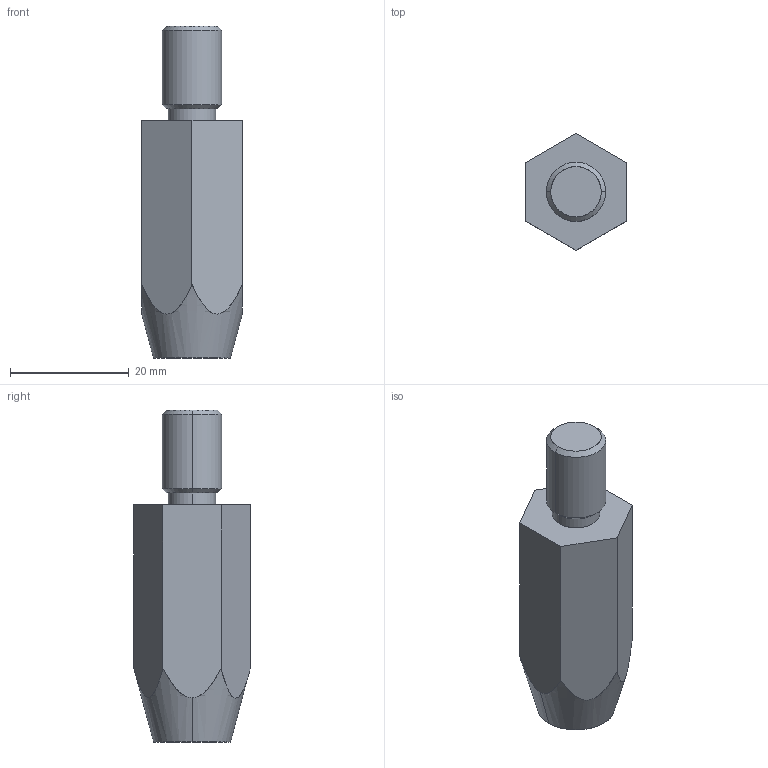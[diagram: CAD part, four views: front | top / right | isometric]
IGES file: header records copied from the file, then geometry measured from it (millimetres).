
Start section: SolidWorks IGES FILE using analytic representation for surfaces
Global section: file name: C:\WIX2\Positioning\3600\3600W102.igs; native system: SolidWorks 2003 by SolidWorks Corporation; preprocessor: Version 5.3; author: Joan; date: 030722.164502; units: millimetre
Bounding box: 17 x 19.63 x 56 mm (x, y, z)
Surface area: 3171.7 mm2 (no closed solid volume)
Topology: 0 solids, 0 shells, 20 faces, 330 edges, 330 vertices
Faces by surface type: revolution 10, bspline 10
